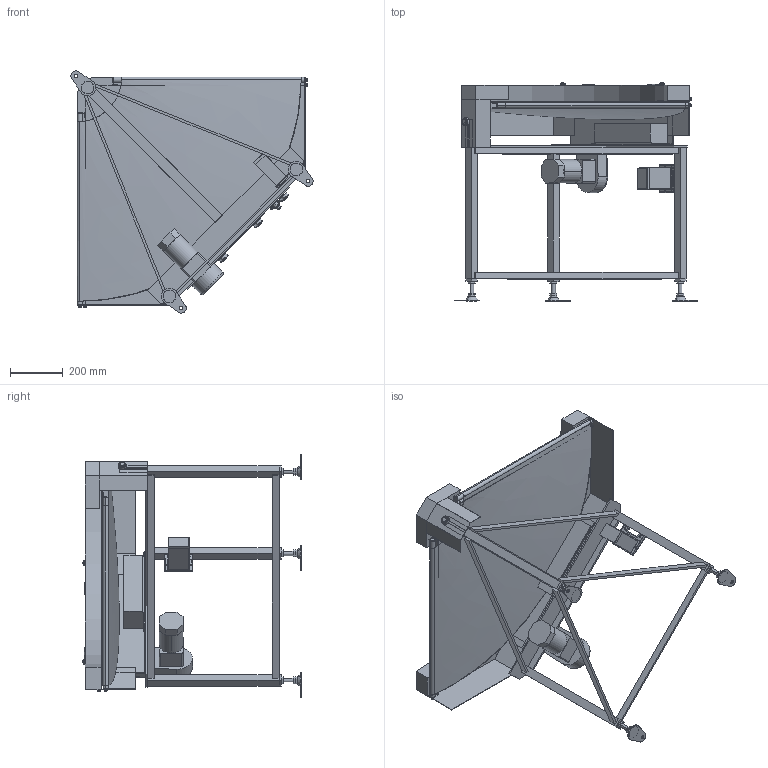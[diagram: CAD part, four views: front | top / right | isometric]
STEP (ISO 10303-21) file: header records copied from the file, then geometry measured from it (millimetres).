
FILE_DESCRIPTION (( 'STEP AP214' ), '1' );
FILE_NAME ('GBC90-UD600-L.STEP', '2024-01-18T00:50:22', ( '' ), ( '' ), 'SwSTEP 2.0', 'SolidWorks 2017', '' );
FILE_SCHEMA (( 'AUTOMOTIVE_DESIGN' ));
Length unit declared in the file: millimetre
Products named in the file (1): GBC90-UD600-L
Bounding box: 917.51 x 827.92 x 917.51 mm (x, y, z)
Volume: 22857330.5 mm3; surface area: 5714218.4 mm2
Topology: 62 solids, 62 shells, 1143 faces, 2625 edges, 1662 vertices
Faces by surface type: plane 609, cylinder 308, cone 123, bspline 73, torus 20, sphere 10
Entity records: 40314 total; most frequent: CARTESIAN_POINT 14027, ORIENTED_EDGE 5218, DIRECTION 5211, EDGE_CURVE 2609, AXIS2_PLACEMENT_3D 1875, VERTEX_POINT 1662, LINE 1461, VECTOR 1461
